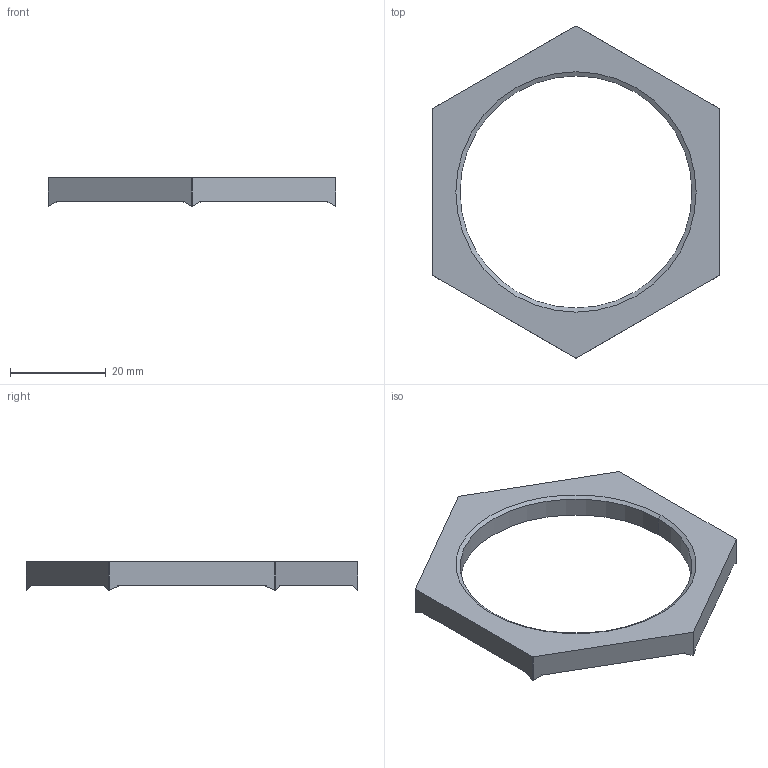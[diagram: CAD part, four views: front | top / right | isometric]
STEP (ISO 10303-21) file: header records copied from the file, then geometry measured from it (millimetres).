
FILE_DESCRIPTION (( 'STEP AP203' ), '1' );
FILE_NAME ('50.250 MPOT.STEP', '2006-05-18T08:45:33', ( ' ' ), ( '' ), 'SwSTEP 2.0', 'SolidWorks 2005278', '' );
FILE_SCHEMA (( 'CONFIG_CONTROL_DESIGN' ));
Length unit declared in the file: millimetre
Products named in the file (1): 50.250 MPOT
Bounding box: 60 x 69.2 x 6 mm (x, y, z)
Volume: 6335.7 mm3; surface area: 4268.5 mm2
Topology: 1 solids, 1 shells, 63 faces, 170 edges, 112 vertices
Faces by surface type: plane 45, cone 10, cylinder 8
Entity records: 2051 total; most frequent: CARTESIAN_POINT 382, ORIENTED_EDGE 340, DIRECTION 312, EDGE_CURVE 170, VECTOR 132, LINE 132, VERTEX_POINT 112, AXIS2_PLACEMENT_3D 90
